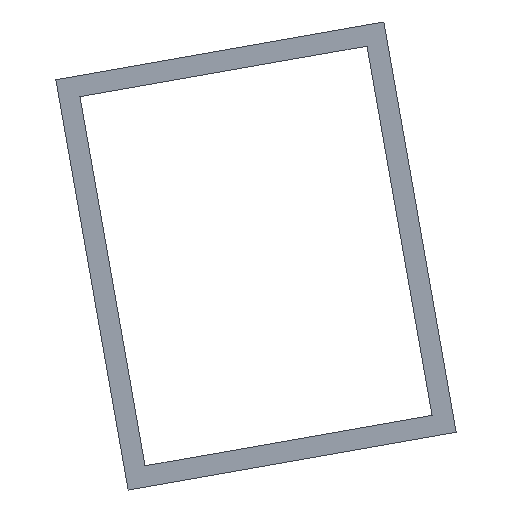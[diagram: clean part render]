
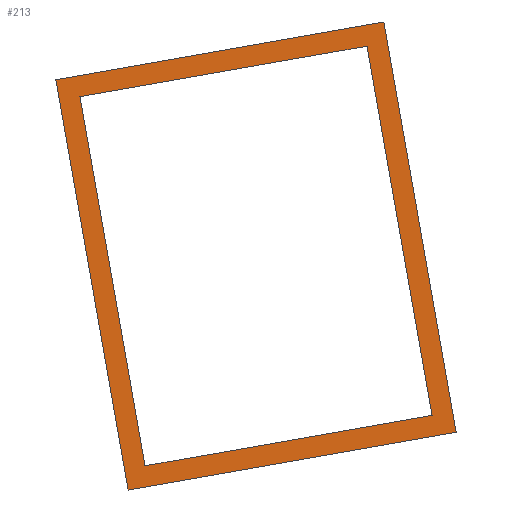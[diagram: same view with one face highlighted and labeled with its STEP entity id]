
A CAD part, left-side view. The second image highlights one B-rep face of the part: STEP entity #213.
In plain terms, the highlighted planar face has unit normal (-1, 0, 0).
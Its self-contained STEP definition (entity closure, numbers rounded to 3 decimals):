
#27=CARTESIAN_POINT('',(-612.,335.349,1565.85));
#28=VERTEX_POINT('',#27);
#45=CARTESIAN_POINT('',(-612.,256.564,1579.742));
#46=VERTEX_POINT('',#45);
#53=CARTESIAN_POINT('',(-612.,335.349,1565.85));
#54=DIRECTION('',(0.0,-0.985,0.174));
#55=VECTOR('',#54,1.);
#56=LINE('',#53,#55);
#57=EDGE_CURVE('',#28,#46,#56,.T.);
#132=CARTESIAN_POINT('',(-612.,352.714,1664.33));
#133=VERTEX_POINT('',#132);
#140=CARTESIAN_POINT('',(-612.,273.929,1678.222));
#141=VERTEX_POINT('',#140);
#142=CARTESIAN_POINT('',(-612.,352.714,1664.33));
#143=DIRECTION('',(0.0,-0.985,0.174));
#144=VECTOR('',#143,1.);
#145=LINE('',#142,#144);
#146=EDGE_CURVE('',#133,#141,#145,.T.);
#158=CARTESIAN_POINT('',(-612.,352.714,1664.33));
#159=DIRECTION('',(-1.0,0.0,0.0));
#160=DIRECTION('',(0.0,-0.174,-0.985));
#161=AXIS2_PLACEMENT_3D('',#158,#159,#160);
#162=PLANE('',#161);
#163=CARTESIAN_POINT('',(-612.,352.714,1664.33));
#164=DIRECTION('',(0.,-0.174,-0.985));
#165=VECTOR('',#164,1.);
#166=LINE('',#163,#165);
#167=EDGE_CURVE('',#133,#28,#166,.T.);
#168=ORIENTED_EDGE('',*,*,#167,.T.);
#169=ORIENTED_EDGE('',*,*,#57,.T.);
#170=CARTESIAN_POINT('',(-612.,273.929,1678.222));
#171=DIRECTION('',(0.,-0.174,-0.985));
#172=VECTOR('',#171,1.);
#173=LINE('',#170,#172);
#174=EDGE_CURVE('',#141,#46,#173,.T.);
#175=ORIENTED_EDGE('',*,*,#174,.F.);
#176=ORIENTED_EDGE('',*,*,#146,.F.);
#177=EDGE_LOOP('',(#168,#169,#175,#176));
#178=FACE_OUTER_BOUND('',#177,.T.);
#179=CARTESIAN_POINT('',(-612.,331.293,1571.642));
#180=VERTEX_POINT('',#179);
#181=CARTESIAN_POINT('',(-612.,346.921,1660.275));
#182=VERTEX_POINT('',#181);
#183=CARTESIAN_POINT('',(-612.,331.293,1571.642));
#184=DIRECTION('',(0.0,0.174,0.985));
#185=VECTOR('',#184,1.);
#186=LINE('',#183,#185);
#187=EDGE_CURVE('',#180,#182,#186,.T.);
#188=ORIENTED_EDGE('',*,*,#187,.T.);
#189=CARTESIAN_POINT('',(-612.,277.985,1672.43));
#190=VERTEX_POINT('',#189);
#191=CARTESIAN_POINT('',(-612.,277.985,1672.43));
#192=DIRECTION('',(0.0,0.985,-0.174));
#193=VECTOR('',#192,1.);
#194=LINE('',#191,#193);
#195=EDGE_CURVE('',#190,#182,#194,.T.);
#196=ORIENTED_EDGE('',*,*,#195,.F.);
#197=CARTESIAN_POINT('',(-612.,262.357,1583.797));
#198=VERTEX_POINT('',#197);
#199=CARTESIAN_POINT('',(-612.,262.357,1583.797));
#200=DIRECTION('',(0.0,0.174,0.985));
#201=VECTOR('',#200,1.);
#202=LINE('',#199,#201);
#203=EDGE_CURVE('',#198,#190,#202,.T.);
#204=ORIENTED_EDGE('',*,*,#203,.F.);
#205=CARTESIAN_POINT('',(-612.,331.293,1571.642));
#206=DIRECTION('',(0.0,-0.985,0.174));
#207=VECTOR('',#206,1.);
#208=LINE('',#205,#207);
#209=EDGE_CURVE('',#180,#198,#208,.T.);
#210=ORIENTED_EDGE('',*,*,#209,.F.);
#211=EDGE_LOOP('',(#188,#196,#204,#210));
#212=FACE_BOUND('',#211,.T.);
#213=ADVANCED_FACE('',(#178,#212),#162,.T.);
